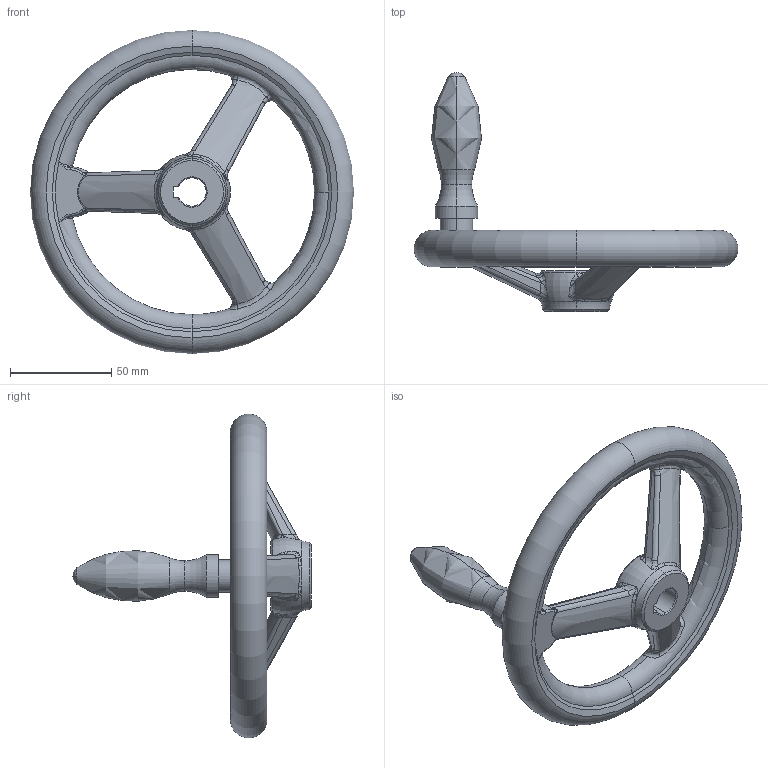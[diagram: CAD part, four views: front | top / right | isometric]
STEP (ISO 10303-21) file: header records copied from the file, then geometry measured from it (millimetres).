
FILE_DESCRIPTION (( 'STEP AP203' ), '1' );
FILE_NAME ('din950_f3_160x14.step', '2010-03-23T10:22:52', ( '_' ), ( '_' ), 'SwSTEP 2.0', 'SolidWorks 2010', '' );
FILE_SCHEMA (( 'CONFIG_CONTROL_DESIGN' ));
Length unit declared in the file: millimetre
Products named in the file (1): din950_f3_160x14
Bounding box: 159.93 x 118 x 159.93 mm (x, y, z)
Volume: 182467.5 mm3; surface area: 41715.1 mm2
Topology: 1 solids, 1 shells, 218 faces, 532 edges, 288 vertices
Faces by surface type: bspline 142, torus 30, cone 18, plane 14, cylinder 12, sphere 2
Entity records: 25858 total; most frequent: CARTESIAN_POINT 21669, ORIENTED_EDGE 1016, DIRECTION 596, EDGE_CURVE 508, VERTEX_POINT 288, AXIS2_PLACEMENT_3D 280, B_SPLINE_CURVE_WITH_KNOTS 265, EDGE_LOOP 222
